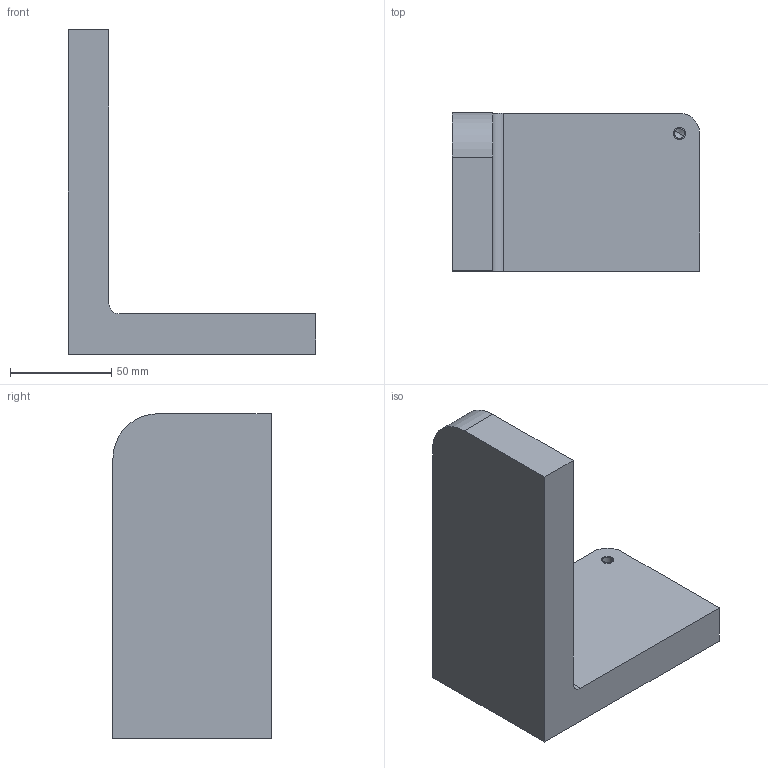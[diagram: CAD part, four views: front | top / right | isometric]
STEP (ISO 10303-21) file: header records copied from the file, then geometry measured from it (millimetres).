
FILE_DESCRIPTION(('CATIA V5 STEP Exchange'),'2;1');
FILE_NAME('C:\_Andres\UNIVERSIDAD\IQS\ASIGNATURAS\DAO\EXF\EXF-16172c\2inicio\Pascual_Sarrias_Ej01_v22.stp','2017-03-05T15:11:09+00:00',('none'),('none'),'CATIA Version 5-6 Release 2014 SP1 HF18','CATIA V5 STEP AP203','none');
FILE_SCHEMA(('CONFIG_CONTROL_DESIGN'));
Length unit declared in the file: millimetre
Products named in the file (1): Pascual_Sarrias_Ej01_v22
Bounding box: 122 x 78 x 160 mm (x, y, z)
Volume: 406319.1 mm3; surface area: 54266.3 mm2
Topology: 1 solids, 2 shells, 17 faces, 43 edges, 27 vertices
Faces by surface type: plane 8, cylinder 7, cone 2
Entity records: 513 total; most frequent: CARTESIAN_POINT 83, ORIENTED_EDGE 78, DIRECTION 69, EDGE_CURVE 41, AXIS2_PLACEMENT_3D 29, VECTOR 27, LINE 27, VERTEX_POINT 27
